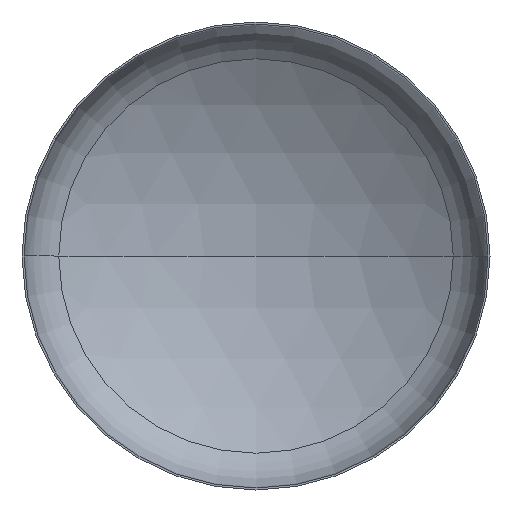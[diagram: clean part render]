
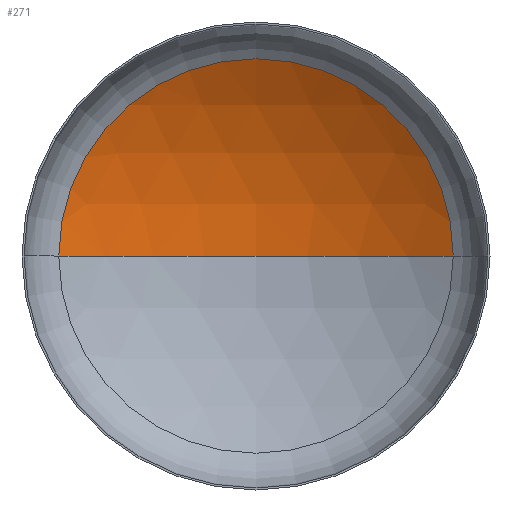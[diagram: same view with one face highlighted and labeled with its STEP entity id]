
A CAD part, front view. The second image highlights one B-rep face of the part: STEP entity #271.
In plain terms, the highlighted spherical face has radius 560 mm.
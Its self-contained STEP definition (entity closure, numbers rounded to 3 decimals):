
#4 = EDGE_LOOP ( 'NONE', ( #127, #121, #68 ) ) ;
#11 = DIRECTION ( 'NONE',  ( -1., 0., 0. ) ) ;
#16 = DIRECTION ( 'NONE',  ( 0., 0., -1. ) ) ;
#20 = DIRECTION ( 'NONE',  ( 0., 0., -1. ) ) ;
#44 = CIRCLE ( 'NONE', #319, 294.933 ) ;
#58 = VERTEX_POINT ( 'NONE', #203 ) ;
#68 = ORIENTED_EDGE ( 'NONE', *, *, #210, .T. ) ;
#81 = VERTEX_POINT ( 'NONE', #176 ) ;
#119 = VERTEX_POINT ( 'NONE', #298 ) ;
#121 = ORIENTED_EDGE ( 'NONE', *, *, #189, .T. ) ;
#126 = AXIS2_PLACEMENT_3D ( 'NONE', #148, #20, #138 ) ;
#127 = ORIENTED_EDGE ( 'NONE', *, *, #165, .F. ) ;
#138 = DIRECTION ( 'NONE',  ( -1., 0., 0. ) ) ;
#148 = CARTESIAN_POINT ( 'NONE',  ( 0., -362.532, 0. ) ) ;
#150 = DIRECTION ( 'NONE',  ( 0., -1., 0. ) ) ;
#152 = FACE_OUTER_BOUND ( 'NONE', #4, .T. ) ;
#162 = DIRECTION ( 'NONE',  ( 0., 0., 1. ) ) ;
#163 = DIRECTION ( 'NONE',  ( 1., 0., 0. ) ) ;
#165 = EDGE_CURVE ( 'NONE', #119, #81, #175, .T. ) ;
#166 = CIRCLE ( 'NONE', #279, 560. ) ;
#168 = CARTESIAN_POINT ( 'NONE',  ( 0., -362.532, 0. ) ) ;
#171 = DIRECTION ( 'NONE',  ( 1., 0., 0. ) ) ;
#175 = CIRCLE ( 'NONE', #264, 560. ) ;
#176 = CARTESIAN_POINT ( 'NONE',  ( -294.933, 113.508, 0. ) ) ;
#181 = CARTESIAN_POINT ( 'NONE',  ( 0., -362.532, 0. ) ) ;
#189 = EDGE_CURVE ( 'NONE', #119, #58, #166, .T. ) ;
#203 = CARTESIAN_POINT ( 'NONE',  ( 294.933, 113.508, 0. ) ) ;
#210 = EDGE_CURVE ( 'NONE', #58, #81, #44, .T. ) ;
#230 = SPHERICAL_SURFACE ( 'NONE', #126, 560. ) ;
#264 = AXIS2_PLACEMENT_3D ( 'NONE', #181, #162, #163 ) ;
#271 = ADVANCED_FACE ( 'NONE', ( #152 ), #230, .F. ) ;
#276 = CARTESIAN_POINT ( 'NONE',  ( 0., 113.508, 0. ) ) ;
#279 = AXIS2_PLACEMENT_3D ( 'NONE', #168, #16, #11 ) ;
#298 = CARTESIAN_POINT ( 'NONE',  ( 0., 197.468, 0. ) ) ;
#319 = AXIS2_PLACEMENT_3D ( 'NONE', #276, #150, #171 ) ;
